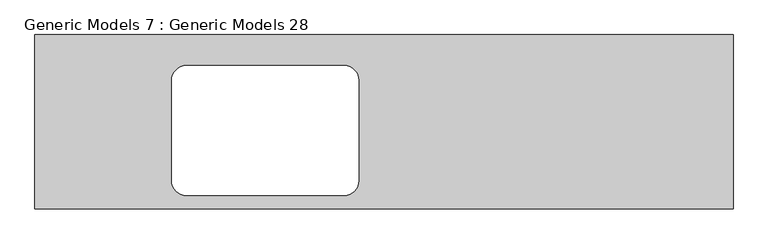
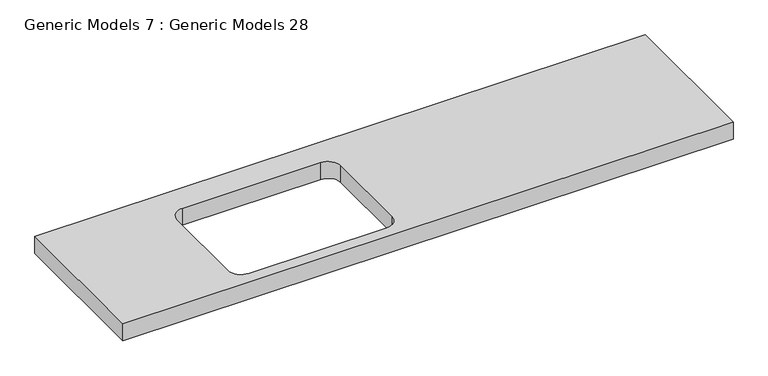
"""IFC4 building model written with IfcOpenShell, lengths in millimetres: proxy geometry, Generic Models 7 : Generic Models 28."""

import ifcopenshell
import ifcopenshell.guid

model = None  # the IFC model being written
_history = None  # IfcOwnerHistory: only IFC2X3 demands one
_inside = {}  # id of a spatial element -> (the spatial element, [elements in it])
_under = {}  # id of a project, library or spatial element -> (it, [spatial elements below it])
_declared = {}  # id of a project -> (the project, [libraries it declares])
_typed = {}  # id of a type object -> (the type object, [elements of that type])
_made_of = {}  # id of a material, layer set ... -> (it, [elements and type objects made of it])


def new_model(schema):
    """Start an empty IFC model of exactly this schema.

    Asked for "IFC4X3", IfcOpenShell would pick the latest addendum, in which some entities
    have other attributes; the version numbers below select the first issue.
    IFC2X3 requires an IfcOwnerHistory on every rooted entity: one is made here for all.
    """
    global model, _history
    if schema == "IFC4X3":
        model = ifcopenshell.file(schema_version=(4, 3, 0, 0))
    else:
        model = ifcopenshell.file(schema=schema)
    _inside.clear()
    _under.clear()
    _declared.clear()
    _typed.clear()
    _made_of.clear()
    _history = None
    if model.schema == "IFC2X3":
        org = make("IfcOrganization", Name="unknown")
        user = make(
            "IfcPersonAndOrganization",
            ThePerson=make("IfcPerson", FamilyName="unknown"),
            TheOrganization=org,
        )
        app = make(
            "IfcApplication",
            ApplicationDeveloper=org,
            Version="unknown",
            ApplicationFullName="unknown",
            ApplicationIdentifier="unknown",
        )
        _history = make(
            "IfcOwnerHistory",
            OwningUser=user,
            OwningApplication=app,
            ChangeAction="ADDED",
            CreationDate=0,
        )
    return model


def make(cls, **values):
    """One entity of the class cls with the attributes given. An attribute that is None is left unset."""
    return model.create_entity(
        cls, **{name: value for name, value in values.items() if value is not None}
    )


def rooted(cls, **values):
    """An entity with a GlobalId (a new one), such as an element, a storey or a relation."""
    return make(cls, GlobalId=ifcopenshell.guid.new(), OwnerHistory=_history, **values)


def si_unit(unit_type, name, prefix=None):
    """IfcSIUnit, for example si_unit("LENGTHUNIT", "METRE", prefix="MILLI")."""
    return make("IfcSIUnit", UnitType=unit_type, Prefix=prefix, Name=name)


def assignment(units):
    """IfcUnitAssignment: the units of a project."""
    return None if units is None else make("IfcUnitAssignment", Units=units)


def point(xyz):
    """IfcCartesianPoint."""
    return None if xyz is None else make("IfcCartesianPoint", Coordinates=xyz)


def direction(xyz):
    """IfcDirection."""
    return None if xyz is None else make("IfcDirection", DirectionRatios=xyz)


def frame(location, z_axis=None, x_axis=None):
    """IfcAxis2Placement3D, a coordinate frame: its origin and axes. An axis left out is left unset."""
    return make(
        "IfcAxis2Placement3D",
        Location=point(location),
        Axis=direction(z_axis),
        RefDirection=direction(x_axis),
    )


def frame_2d(location, x_axis=None):
    """IfcAxis2Placement2D, a coordinate frame in the plane: its origin and x axis."""
    return make(
        "IfcAxis2Placement2D", Location=point(location), RefDirection=direction(x_axis)
    )


def origin():
    """The frame at (0, 0, 0) with its axes left unset."""
    return frame((0.0, 0.0, 0.0))


def place(relative_to, where):
    """IfcLocalPlacement: puts the frame where relative to a parent placement (None: the world)."""
    return make(
        "IfcLocalPlacement", PlacementRelTo=relative_to, RelativePlacement=where
    )


def context(
    kind, dimensions, precision=None, world=None, true_north=None, identifier=None
):
    """IfcGeometricRepresentationContext, for example the 3D "Model" context."""
    return make(
        "IfcGeometricRepresentationContext",
        ContextIdentifier=identifier,
        ContextType=kind,
        CoordinateSpaceDimension=dimensions,
        Precision=precision,
        WorldCoordinateSystem=world,
        TrueNorth=true_north,
    )


def project(units=None, contexts=None):
    """IfcProject with its units and contexts."""
    return rooted(
        "IfcProject",
        Name="project",
        RepresentationContexts=contexts,
        UnitsInContext=assignment(units),
    )


def spatial(cls, under=None, at=None, **own):
    """A site, building, storey or space (cls), placed at a placement, below another one or the project."""
    s = rooted(cls, ObjectPlacement=at, **own)
    if under is not None:
        _under.setdefault(under.id(), (under, []))[1].append(s)
    return s


def polyline(points):
    """IfcPolyline through the points."""
    return make("IfcPolyline", Points=[point(p) for p in points])


def circle_curve(where, radius):
    """IfcCircle in the frame where."""
    return make("IfcCircle", Position=where, Radius=radius)


def trimmed(basis, trim1, trim2, sense, master):
    """IfcTrimmedCurve: the piece of a basis curve between two trims."""
    return make(
        "IfcTrimmedCurve",
        BasisCurve=basis,
        Trim1=trim1,
        Trim2=trim2,
        SenseAgreement=sense,
        MasterRepresentation=master,
    )


def segment(curve, same_sense, transition):
    """IfcCompositeCurveSegment."""
    return make(
        "IfcCompositeCurveSegment",
        Transition=transition,
        SameSense=same_sense,
        ParentCurve=curve,
    )


def composite_curve(segments, self_intersect=None):
    """IfcCompositeCurve: segments joined end to end."""
    return make("IfcCompositeCurve", Segments=segments, SelfIntersect=self_intersect)


def outline(outer, holes=None, kind="AREA"):
    """IfcArbitraryClosedProfileDef: a profile drawn as a closed curve; with holes, ...WithVoids."""
    if holes is None:
        return make("IfcArbitraryClosedProfileDef", ProfileType=kind, OuterCurve=outer)
    return make(
        "IfcArbitraryProfileDefWithVoids",
        ProfileType=kind,
        OuterCurve=outer,
        InnerCurves=holes,
    )


def extrude(swept, where, along, depth):
    """IfcExtrudedAreaSolid: the profile swept, set in the frame where, extruded along a direction by depth."""
    return make(
        "IfcExtrudedAreaSolid",
        SweptArea=swept,
        Position=where,
        ExtrudedDirection=direction(along),
        Depth=depth,
    )


def shape(context_of_items, identifier, shape_type, items):
    """IfcShapeRepresentation: the items that make up one representation, for example the "Body"."""
    return make(
        "IfcShapeRepresentation",
        ContextOfItems=context_of_items,
        RepresentationIdentifier=identifier,
        RepresentationType=shape_type,
        Items=items,
    )


def source(mapping_origin, context_of_items, identifier, shape_type, items):
    """IfcRepresentationMap: a shape defined once, which mapped items show again and again."""
    return make(
        "IfcRepresentationMap",
        MappingOrigin=mapping_origin,
        MappedRepresentation=shape(context_of_items, identifier, shape_type, items),
    )


def transform(
    local_origin,
    x_axis=None,
    y_axis=None,
    z_axis=None,
    scale=None,
    scale2=None,
    scale3=None,
    uniform=True,
):
    """IfcCartesianTransformationOperator3D, or its non-uniform kind. x_axis, y_axis, z_axis: its Axis1, 2, 3."""
    if uniform:
        return make(
            "IfcCartesianTransformationOperator3D",
            Axis1=direction(x_axis),
            Axis2=direction(y_axis),
            LocalOrigin=point(local_origin),
            Scale=scale,
            Axis3=direction(z_axis),
        )
    return make(
        "IfcCartesianTransformationOperator3DnonUniform",
        Axis1=direction(x_axis),
        Axis2=direction(y_axis),
        LocalOrigin=point(local_origin),
        Scale=scale,
        Axis3=direction(z_axis),
        Scale2=scale2,
        Scale3=scale3,
    )


def mapped(mapping_source, mapping_target):
    """IfcMappedItem: shows the shape of a source again, moved by a transform."""
    return make(
        "IfcMappedItem", MappingSource=mapping_source, MappingTarget=mapping_target
    )


def made_of(thing, what):
    """Note that an element or type object is made of a material, layer set ...; save() writes the relation."""
    if what is not None:
        _made_of.setdefault(what.id(), (what, []))[1].append(thing)
    return thing


def element(
    cls,
    number,
    at=None,
    inside=None,
    cuts=None,
    type_object=None,
    material=None,
    context=None,
    identifier="Body",
    shape_type=None,
    held_by="IfcProductDefinitionShape",
    body=None,
    shapes=None,
    **own,
):
    """One element of the class cls, such as IfcWall. Its Tag is "e" and its number.

    at: its placement. inside: the storey or other place that contains it. cuts: it is an
    opening in that element (IfcRelVoidsElement). A single representation is given by context,
    identifier, shape_type and body (its items); several are given by shapes. held_by: the class
    of the entity that holds the representations. save() writes the other relations.
    """
    e = rooted(cls, Tag="e%d" % number, ObjectPlacement=at, **own)
    if body is not None:
        shapes = [shape(context, identifier, shape_type, body)]
    if shapes is not None:
        e.Representation = make(held_by, Representations=shapes)
    if inside is not None:
        _inside.setdefault(inside.id(), (inside, []))[1].append(e)
    if cuts is not None:
        rooted(
            "IfcRelVoidsElement", RelatingBuildingElement=cuts, RelatedOpeningElement=e
        )
    if type_object is not None:
        _typed.setdefault(type_object.id(), (type_object, []))[1].append(e)
    return made_of(e, material)


def aggregate(whole, parts):
    """IfcRelAggregates: a whole, such as a stair, and the parts it consists of."""
    return rooted("IfcRelAggregates", RelatingObject=whole, RelatedObjects=parts)


def save(model, path):
    """Write the relations noted so far, then the file.

    IfcRelAggregates (storeys below a building ...), IfcRelContainedInSpatialStructure (elements
    in a storey), IfcRelDefinesByType, IfcRelAssociatesMaterial and IfcRelDeclares: one each for
    every whole, place, type object, material and project.
    """
    for whole, parts in _under.values():
        aggregate(whole, parts)
    for where, things in _inside.values():
        rooted(
            "IfcRelContainedInSpatialStructure",
            RelatedElements=things,
            RelatingStructure=where,
        )
    for kind, things in _typed.values():
        rooted("IfcRelDefinesByType", RelatedObjects=things, RelatingType=kind)
    for what, things in _made_of.values():
        rooted("IfcRelAssociatesMaterial", RelatedObjects=things, RelatingMaterial=what)
    for by, libraries in _declared.values():
        rooted("IfcRelDeclares", RelatingContext=by, RelatedDefinitions=libraries)
    model.write(path)


def generic_models_7_generic_models_28_621922d4(model_context):
    return source(origin(), model_context, "Body", "SweptSolid", [
        extrude(outline(polyline([(-24262.2739616, -6139.6284734), (-21862.2739616, -6139.6284734), (-21862.2739616, -6739.6284734), (-24262.2739616, -6739.6284734), (-24262.2739616, -6139.6284734)]), holes=[composite_curve([segment(polyline([(-23149.0168889, -6642.1883633), (-23149.0168889, -6296.1883633)]), True, "CONTINUOUS"), segment(trimmed(circle_curve(frame_2d((-23199.8168889, -6296.1883633)), 50.8), [point((-23149.0168889, -6296.1883633))], [point((-23199.8168889, -6245.3883633))], True, "CARTESIAN"), True, "CONTINUOUS"), segment(polyline([(-23199.8168889, -6245.3883633), (-23741.3168889, -6245.3883633)]), True, "CONTINUOUS"), segment(trimmed(circle_curve(frame_2d((-23741.3168889, -6296.1883633)), 50.8), [point((-23741.3168889, -6245.3883633))], [point((-23792.1168889, -6296.1883633))], True, "CARTESIAN"), True, "CONTINUOUS"), segment(polyline([(-23792.1168889, -6296.1883633), (-23792.1168889, -6642.1883633)]), True, "CONTINUOUS"), segment(trimmed(circle_curve(frame_2d((-23741.3168889, -6642.1883633)), 50.8), [point((-23792.1168889, -6642.1883633))], [point((-23741.3168889, -6692.9883633))], True, "CARTESIAN"), True, "CONTINUOUS"), segment(polyline([(-23741.3168889, -6692.9883633), (-23199.8168889, -6692.9883633)]), True, "CONTINUOUS"), segment(trimmed(circle_curve(frame_2d((-23199.8168889, -6642.1883633)), 50.8), [point((-23199.8168889, -6692.9883633))], [point((-23149.0168889, -6642.1883633))], True, "CARTESIAN"), True, "CONTINUOUS")], self_intersect=False)]), frame((0.0, 0.0, 830.0), z_axis=(0.0, 0.0, 1.0), x_axis=(1.0, 0.0, 0.0)), (0.0, 0.0, 1.0), 70.0),
    ])


if __name__ == "__main__":
    model = new_model("IFC4")
    model_context = context("Model", 3, world=origin())
    ifc_project = project(units=[si_unit("LENGTHUNIT", "METRE", prefix="MILLI")], contexts=[model_context])
    site = spatial("IfcSite", under=ifc_project)
    building = spatial("IfcBuilding", under=site)
    placement = place(None, origin())
    generic_models_7_generic_models_28_shape = generic_models_7_generic_models_28_621922d4(model_context)
    element("IfcBuildingElementProxy", 1, Name="Generic Models 7 : Generic Models 28", ObjectType="Generic Models 7 : Generic Models 28", at=placement, inside=building, context=model_context, shape_type="MappedRepresentation", body=[
        mapped(generic_models_7_generic_models_28_shape, transform((0.0, 0.0, 0.0), x_axis=(1.0, 0.0, 0.0), y_axis=(0.0, 1.0, 0.0), z_axis=(0.0, 0.0, 1.0))),
    ])
    save(model, "model.ifc")
